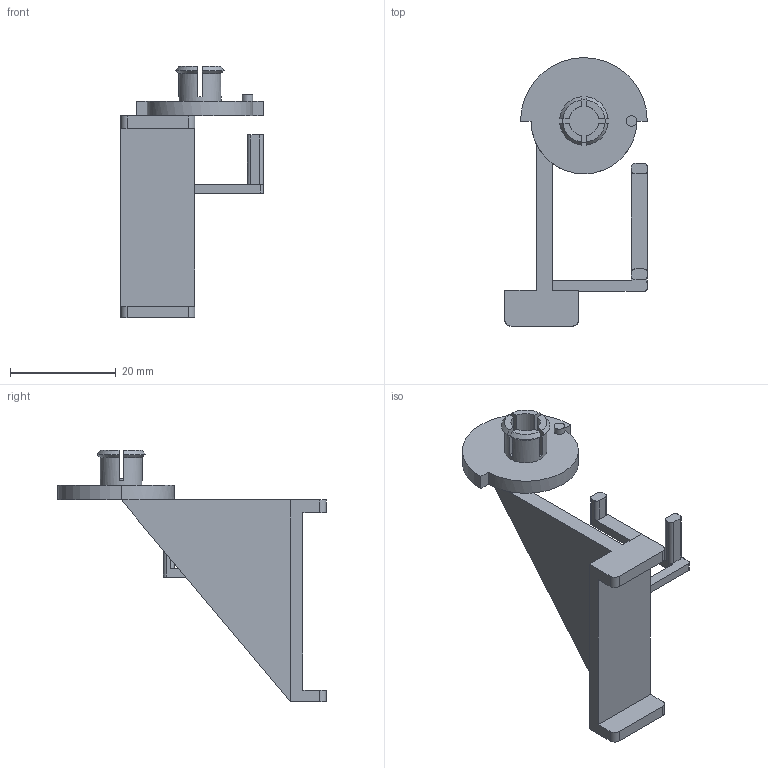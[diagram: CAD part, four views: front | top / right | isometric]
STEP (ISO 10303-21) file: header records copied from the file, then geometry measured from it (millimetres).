
FILE_DESCRIPTION(('Open CASCADE Model'),'2;1');
FILE_NAME('Open CASCADE Shape Model','2026-10-14T00:43:51',('Author'),( 'Open CASCADE'),'Open CASCADE STEP processor 8.0','build123d', 'Unknown');
FILE_SCHEMA(('AUTOMOTIVE_DESIGN { 1 0 10303 214 1 1 1 1 }'));
Length unit declared in the file: millimetre
Products named in the file (1): COMPOUND
Bounding box: 27 x 50.8 x 47.6 mm (x, y, z)
Volume: 4890.7 mm3; surface area: 4633.3 mm2
Topology: 1 solids, 1 shells, 83 faces, 233 edges, 153 vertices
Faces by surface type: plane 49, cylinder 26, cone 8
Full cylindrical faces by diameter (mm): 2 x1, 8 x1
Entity records: 5767 total; most frequent: CARTESIAN_POINT 1290, DIRECTION 812, ORIENTED_EDGE 466, PCURVE 466, DEFINITIONAL_REPRESENTATION 466, LINE 430, VECTOR 430, EDGE_CURVE 233
